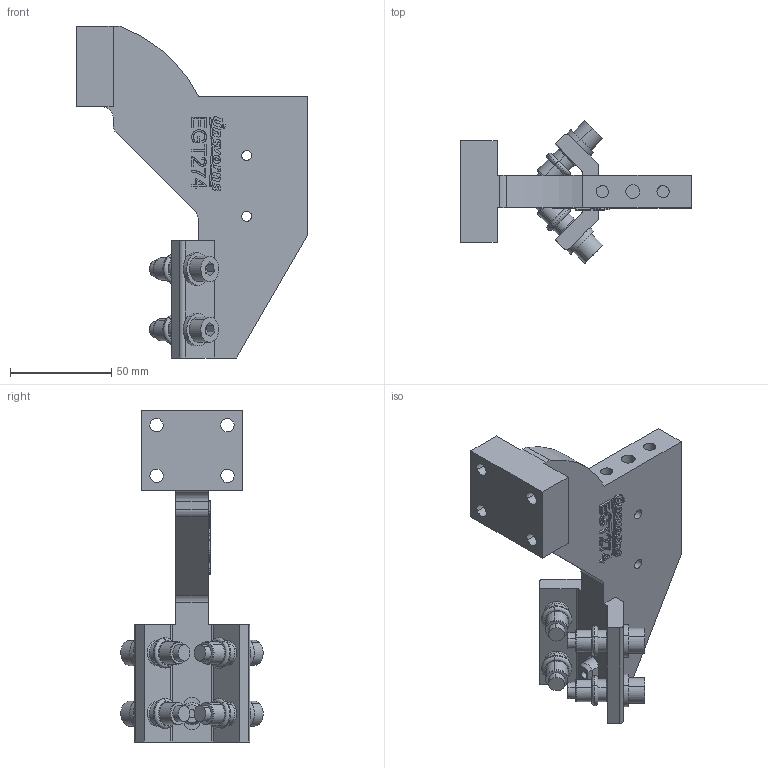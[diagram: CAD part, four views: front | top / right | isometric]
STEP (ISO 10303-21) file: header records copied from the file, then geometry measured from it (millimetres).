
FILE_DESCRIPTION(('CATIA V5 STEP Exchange'),'2;1');
FILE_NAME('\\Uns.com\share\技术部\03-技术资料\03-产品数模\02、抓具\STP\01-八角管抓具STP\连接件\EGT274.stp','2019-05-15T09:10:01+00:00',('none'),('none'),'CATIA Version 5 Release 21 GA (IN-10)','CATIA V5 STEP AP203','none');
FILE_SCHEMA(('CONFIG_CONTROL_DESIGN'));
Length unit declared in the file: millimetre
Products named in the file (1): EGT274
Bounding box: 114 x 70.35 x 164 mm (x, y, z)
Volume: 194337.2 mm3; surface area: 51476.1 mm2
Topology: 1 solids, 5 shells, 863 faces, 2330 edges, 1534 vertices
Faces by surface type: plane 593, cylinder 128, extrusion 100, cone 26, torus 16
Entity records: 29152 total; most frequent: CARTESIAN_POINT 8335, ORIENTED_EDGE 4660, DIRECTION 3480, EDGE_CURVE 2330, VECTOR 1874, LINE 1774, VERTEX_POINT 1534, EDGE_LOOP 942
